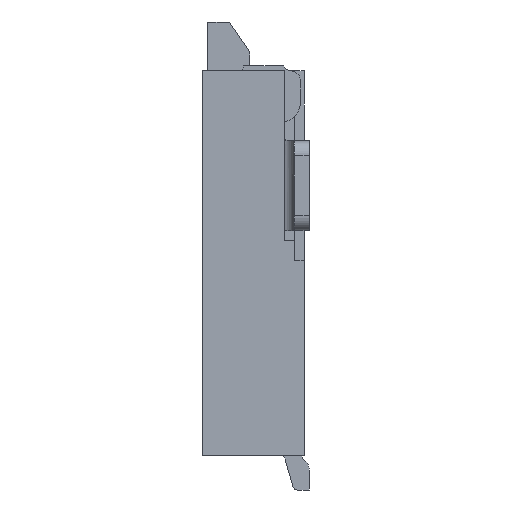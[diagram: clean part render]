
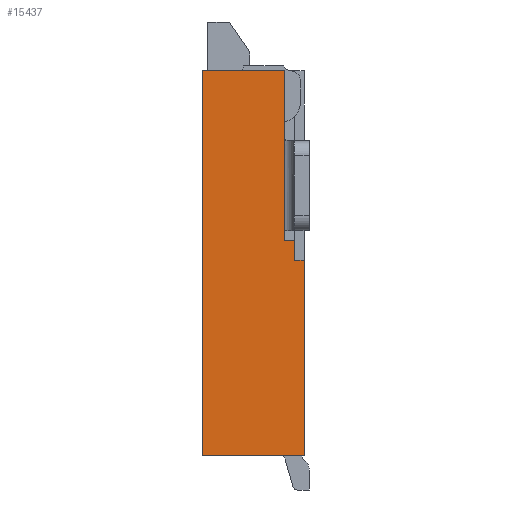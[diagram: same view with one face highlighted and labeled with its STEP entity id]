
A CAD part, left-side view. The second image highlights one B-rep face of the part: STEP entity #15437.
In plain terms, the highlighted planar face has unit normal (-1, 0, 0).
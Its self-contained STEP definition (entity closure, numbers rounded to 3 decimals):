
#17=DIRECTION('',(0.,0.,-1.));
#18=VECTOR('',#17,1.95);
#19=CARTESIAN_POINT('',(-4.75,-1.,-1.9));
#20=LINE('',#19,#18);
#45=DIRECTION('',(0.,1.,0.));
#46=VECTOR('',#45,1.02);
#47=CARTESIAN_POINT('',(-4.75,-1.,-3.85));
#48=LINE('',#47,#46);
#2002=DIRECTION('',(0.,-1.,0.));
#2003=VECTOR('',#2002,0.82);
#2004=CARTESIAN_POINT('',(-4.75,0.02,0.));
#2005=LINE('',#2004,#2003);
#2098=DIRECTION('',(0.,0.,1.));
#2099=VECTOR('',#2098,3.85);
#2100=CARTESIAN_POINT('',(-4.75,0.02,-3.85));
#2101=LINE('',#2100,#2099);
#3366=DIRECTION('',(0.,0.,1.));
#3367=VECTOR('',#3366,1.7);
#3368=CARTESIAN_POINT('',(-4.75,-0.8,-1.7));
#3369=LINE('',#3368,#3367);
#3842=DIRECTION('',(0.,-1.,0.));
#3843=VECTOR('',#3842,0.1);
#3844=CARTESIAN_POINT('',(-4.75,-0.8,-1.7));
#3845=LINE('',#3844,#3843);
#3858=DIRECTION('',(0.,0.,1.));
#3859=VECTOR('',#3858,0.2);
#3860=CARTESIAN_POINT('',(-4.75,-0.9,-1.9));
#3861=LINE('',#3860,#3859);
#3878=DIRECTION('',(0.,-1.,0.));
#3879=VECTOR('',#3878,0.1);
#3880=CARTESIAN_POINT('',(-4.75,-0.9,-1.9));
#3881=LINE('',#3880,#3879);
#11762=CARTESIAN_POINT('',(-4.75,0.02,-3.85));
#11764=VERTEX_POINT('',#11762);
#12747=CARTESIAN_POINT('',(-4.75,-1.,-1.9));
#12748=CARTESIAN_POINT('',(-4.75,-1.,-3.85));
#12749=VERTEX_POINT('',#12747);
#12750=VERTEX_POINT('',#12748);
#12751=CARTESIAN_POINT('',(-4.75,-0.9,-1.9));
#12752=VERTEX_POINT('',#12751);
#12753=CARTESIAN_POINT('',(-4.75,-0.9,-1.7));
#12754=VERTEX_POINT('',#12753);
#12755=CARTESIAN_POINT('',(-4.75,-0.8,-1.7));
#12756=CARTESIAN_POINT('',(-4.75,-0.8,0.));
#12757=VERTEX_POINT('',#12755);
#12758=VERTEX_POINT('',#12756);
#12759=CARTESIAN_POINT('',(-4.75,0.02,0.));
#12760=VERTEX_POINT('',#12759);
#15414=CARTESIAN_POINT('',(-4.75,-0.49,-1.925));
#15415=DIRECTION('',(1.,0.,0.));
#15416=DIRECTION('',(0.,0.,-1.));
#15417=AXIS2_PLACEMENT_3D('',#15414,#15415,#15416);
#15418=PLANE('',#15417);
#15420=ORIENTED_EDGE('',*,*,#15419,.T.);
#15422=ORIENTED_EDGE('',*,*,#15421,.T.);
#15424=ORIENTED_EDGE('',*,*,#15423,.T.);
#15426=ORIENTED_EDGE('',*,*,#15425,.T.);
#15428=ORIENTED_EDGE('',*,*,#15427,.F.);
#15430=ORIENTED_EDGE('',*,*,#15429,.T.);
#15432=ORIENTED_EDGE('',*,*,#15431,.F.);
#15434=ORIENTED_EDGE('',*,*,#15433,.T.);
#15435=EDGE_LOOP('',(#15420,#15422,#15424,#15426,#15428,#15430,#15432,#15434));
#15436=FACE_OUTER_BOUND('',#15435,.F.);
#15419=EDGE_CURVE('',#12749,#12750,#20,.T.);
#15421=EDGE_CURVE('',#12750,#11764,#48,.T.);
#15423=EDGE_CURVE('',#11764,#12760,#2101,.T.);
#15425=EDGE_CURVE('',#12760,#12758,#2005,.T.);
#15427=EDGE_CURVE('',#12757,#12758,#3369,.T.);
#15429=EDGE_CURVE('',#12757,#12754,#3845,.T.);
#15431=EDGE_CURVE('',#12752,#12754,#3861,.T.);
#15433=EDGE_CURVE('',#12752,#12749,#3881,.T.);
#15437=ADVANCED_FACE('',(#15436),#15418,.F.);
